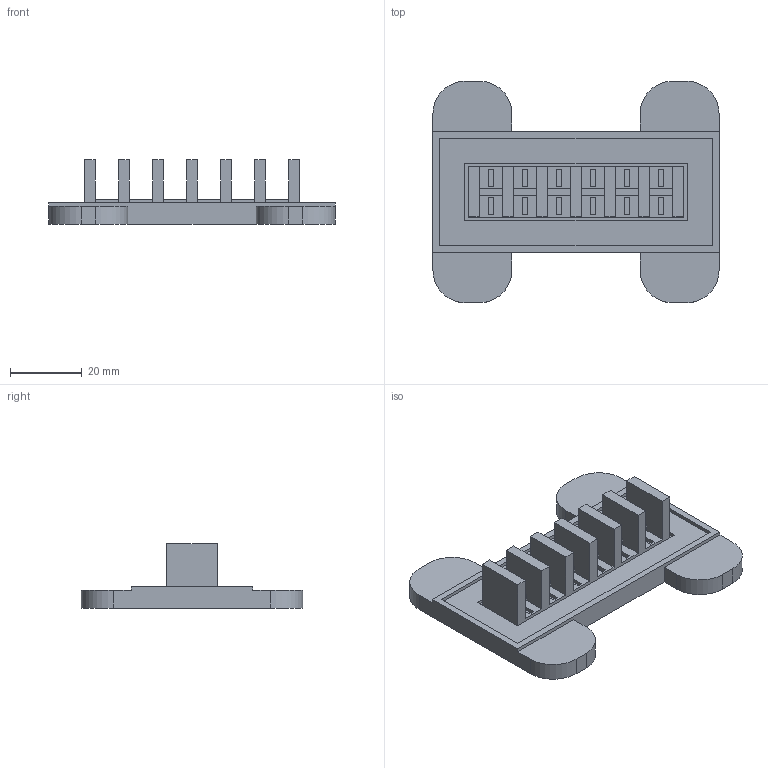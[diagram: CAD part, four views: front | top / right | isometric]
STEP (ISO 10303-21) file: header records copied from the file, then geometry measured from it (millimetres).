
FILE_DESCRIPTION(/* description */ (''),/* implementation_level */ '2;1');
FILE_NAME(/* name */ 'Cavity7CB v1.step',/* time_stamp */ '2024-07-04T14:23:25+05:30',/* author */ (''),/* organization */ (''),/* preprocessor_version */ 'ST-DEVELOPER v20',/* originating_system */ 'Autodesk Translation Framework v13.14.0.145',/* authorisation */ '');
FILE_SCHEMA (('AUTOMOTIVE_DESIGN { 1 0 10303 214 3 1 1 }'));
Length unit declared in the file: millimetre
Products named in the file (1): Cavity7CB
Bounding box: 79.8 x 61.8 x 18 mm (x, y, z)
Volume: 23107.7 mm3; surface area: 13218.2 mm2
Topology: 1 solids, 1 shells, 149 faces, 396 edges, 264 vertices
Faces by surface type: plane 141, cylinder 8
Entity records: 4579 total; most frequent: CARTESIAN_POINT 810, ORIENTED_EDGE 792, DIRECTION 712, EDGE_CURVE 396, LINE 380, VECTOR 380, VERTEX_POINT 264, AXIS2_PLACEMENT_3D 166
